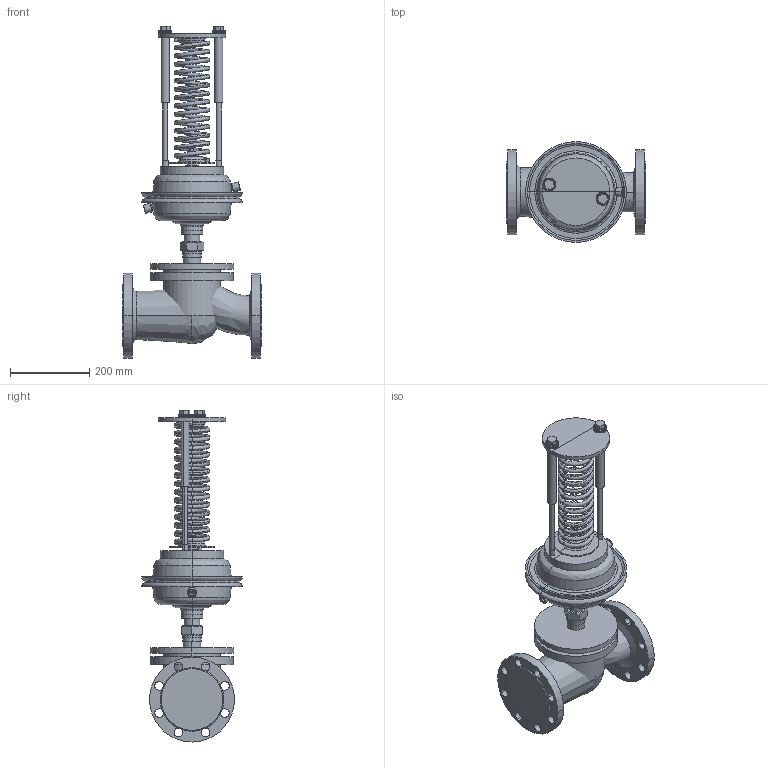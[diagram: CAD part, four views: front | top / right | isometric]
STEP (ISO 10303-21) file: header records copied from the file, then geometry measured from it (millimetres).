
FILE_DESCRIPTION(/* description */ (''),/* implementation_level */ '2;1');
FILE_NAME(/* name */ 'ETM_Регулятордавления_УРРД_НЗ_РД_DN100',/* time_stamp */ '2026-04-18T14:53:14+03:00',/* author */ (''),/* organization */ (''),/* preprocessor_version */ 'ST-DEVELOPER v20',/* originating_system */ '',/* authorisation */ '');
FILE_SCHEMA (('AP242_MANAGED_MODEL_BASED_3D_ENGINEERING_MIM_LF { 1 0 10303 442 1 1 4 }'));
Length unit declared in the file: millimetre
Products named in the file (13): TopLevelAssembly; Выдавливание; Переход; Выдавливание_
1; Переход_1; Переход_2; Переход_3; Объемная геометрия 
присоединена; Выдавливание_
2; Выдавливание_
3; Объемная геометрия 
присоединена_1; Выдавливание_
4; Пружина желтая
Assembly tree (12 placements, depth 2):
  TopLevelAssembly
    Выдавливание
    Переход
    Выдавливание_
1
    Переход_1
    Переход_2
    Переход_3
    Объемная геометрия 
присоединена
    Выдавливание_
2
    Выдавливание_
3
    Объемная геометрия 
присоединена_1
    Выдавливание_
4
    Пружина желтая
Bounding box: 350 x 255.07 x 839.91 mm (x, y, z)
Volume: 13805118.8 mm3; surface area: 1249500.9 mm2
Topology: 33 solids, 33 shells, 522 faces, 1078 edges, 560 vertices
Faces by surface type: bspline 191, plane 183, cylinder 138, cone 10
Entity records: 17101 total; most frequent: CARTESIAN_POINT 5903, DIRECTION 2372, ORIENTED_EDGE 2064, EDGE_CURVE 1032, AXIS2_PLACEMENT_3D 1008, CIRCLE 651, VERTEX_POINT 560, EDGE_LOOP 558
